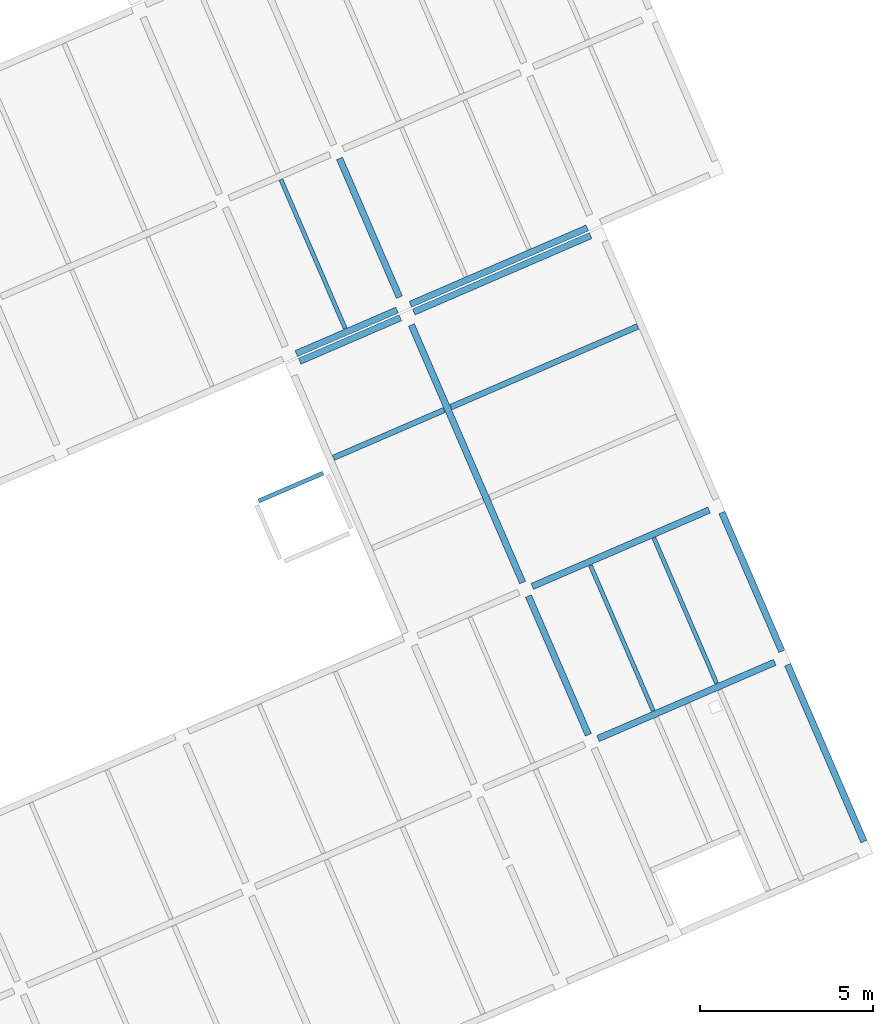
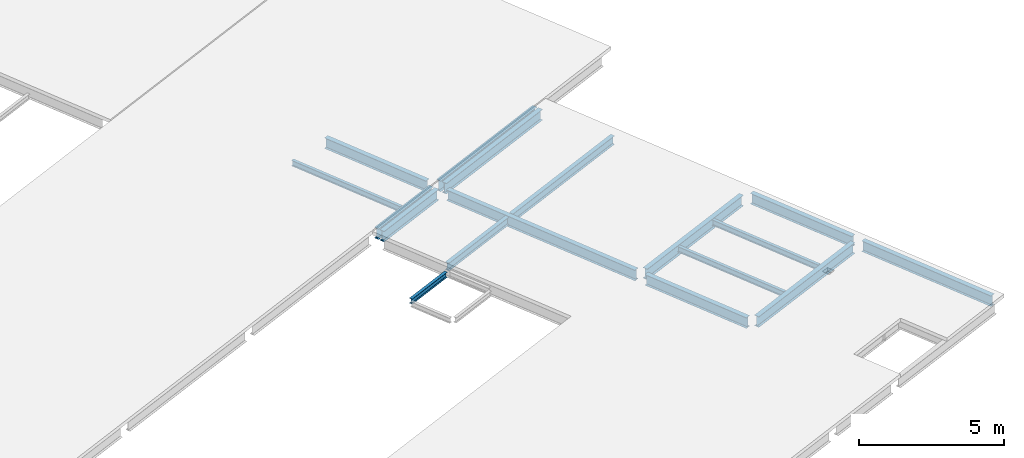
# One storey, part 7 of 15: 17 beams.
"""IFC4 building model written with IfcOpenShell, lengths in metres."""

from ifc_helpers import new_model, entity, si_unit, converted_unit, derived_unit, direction, frame, origin, place, context, subcontext, project, spatial, line, arc, indexed_curve, outline, extrude, source, transform, mapped, material, type_object, type_shapes, element, save


model = new_model("IFC4")

# Units and contexts
model_context = context("Model", 3, precision=1e-05, world=origin(), true_north=direction((6.12323399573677e-17, 1.0)))
body_context = subcontext(model_context, "Body", "Model", "MODEL_VIEW")
ifc_project = project(units=[si_unit("LENGTHUNIT", "METRE"), si_unit("AREAUNIT", "SQUARE_METRE"), si_unit("VOLUMEUNIT", "CUBIC_METRE"), converted_unit("PLANEANGLEUNIT", "DEGREE", entity("IfcPlaneAngleMeasure", 0.0174532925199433), si_unit("PLANEANGLEUNIT", "RADIAN"), dimensions=[0, 0, 0, 0, 0, 0, 0]), si_unit("MASSUNIT", "GRAM", prefix="KILO"), derived_unit("MOMENTOFINERTIAUNIT", [(si_unit("LENGTHUNIT", "METRE"), 4)]), derived_unit("LINEARFORCEUNIT", [(si_unit("MASSUNIT", "GRAM", prefix="KILO"), 1), (si_unit("TIMEUNIT", "SECOND"), -2)]), derived_unit("WARPINGCONSTANTUNIT", [(si_unit("LENGTHUNIT", "METRE"), 6)]), derived_unit("THERMALTRANSMITTANCEUNIT", [(si_unit("MASSUNIT", "GRAM", prefix="KILO"), 1), (si_unit("THERMODYNAMICTEMPERATUREUNIT", "KELVIN"), -1), (si_unit("TIMEUNIT", "SECOND"), -3)]), derived_unit("USERDEFINED", [(si_unit("MASSUNIT", "GRAM", prefix="KILO"), 1), (si_unit("TIMEUNIT", "SECOND"), -2), (si_unit("THERMODYNAMICTEMPERATUREUNIT", "KELVIN"), -1)]), derived_unit("THERMALRESISTANCEUNIT", [(si_unit("MASSUNIT", "GRAM", prefix="KILO"), -1), (si_unit("TIMEUNIT", "SECOND"), 3), (si_unit("THERMODYNAMICTEMPERATUREUNIT", "KELVIN"), 1)])], contexts=[model_context])

# Site, building, storey
site_placement = place(None, origin())
site = spatial("IfcSite", under=ifc_project, at=site_placement, Name="Default", CompositionType="ELEMENT")
building_placement = place(site_placement, frame((12.6613425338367, -82.5732315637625, 317.15), z_axis=(0.0, 0.0, 1.0), x_axis=(-0.396377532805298, 0.918087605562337, 0.0)))
building = spatial("IfcBuilding", under=site, at=building_placement, Name="CESFAM Coyhaique", CompositionType="ELEMENT")
storey_placement = place(building_placement, frame((0.0, 0.0, 8.45000000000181)))
storey = spatial("IfcBuildingStorey", under=building, at=storey_placement, Name="Nivel 3", CompositionType="ELEMENT", Elevation=8.45000000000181)

# Beams
ifc_material = material(Name="Steel, 45-345", Category="Metal")
beam_type_1 = type_object("IfcBeamType", Name="M_W Shapes:W450X190mm", PredefinedType="BEAM", material=ifc_material)
shared_shape_1 = source(origin(), body_context, "Body", "SweptSolid", [
    extrude(outline(indexed_curve([(-0.224999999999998, -0.0950000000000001), (-0.215349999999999, -0.0950000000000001), (-0.215349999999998, -0.0105700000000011), (-0.213109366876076, -0.00516063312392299), (-0.207699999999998, -0.0029200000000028), (0.207700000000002, -0.0029200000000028), (0.21310936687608, -0.00516063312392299), (0.215350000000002, -0.0105700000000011), (0.215350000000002, -0.0950000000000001), (0.225000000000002, -0.0950000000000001), (0.225000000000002, 0.0950000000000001), (0.215350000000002, 0.0950000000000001), (0.215350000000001, 0.0105699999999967), (0.21310936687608, 0.00516063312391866), (0.207700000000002, 0.00291999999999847), (-0.207699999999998, 0.00291999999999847), (-0.213109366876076, 0.00516063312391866), (-0.215349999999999, 0.0105699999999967), (-0.215349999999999, 0.0950000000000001), (-0.224999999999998, 0.0950000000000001)], segments=[line(1, 2, 3), arc(3, 4, 5), line(5, 6), arc(6, 7, 8), line(8, 9, 10, 11, 12, 13), arc(13, 14, 15), line(15, 16), arc(16, 17, 18), line(18, 19, 20, 1)], self_intersect=False)), frame((4.381553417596, -21.2971495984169, 8.07500000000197), z_axis=(1.0, 0.0, 0.0), x_axis=(0.0, 0.0, -1.0)), (0.0, 0.0, 1.0), 5.5746),
])
type_shapes(beam_type_1, [shared_shape_1])
beam_1_placement = place(storey_placement, frame((0.0, 0.0, -8.45000000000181)))
element("IfcBeam", 1, at=beam_1_placement, inside=storey, type_object=beam_type_1, Name="M_W Shapes:W450X190mm", ObjectType="M_W Shapes:W450X190mm", PredefinedType="BEAM", context=body_context, shape_type="MappedRepresentation", body=[
    mapped(shared_shape_1, transform((0.0, 0.0, 0.0), scale=1.0)),
])
beam_type_2 = type_object("IfcBeamType", Name="M_W Shapes:W450X190mm", PredefinedType="BEAM", material=ifc_material)
shared_shape_2 = source(origin(), body_context, "Body", "SweptSolid", [
    extrude(outline(indexed_curve([(-0.224999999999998, -0.0950000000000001), (-0.215349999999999, -0.0949999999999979), (-0.215349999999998, -0.0105699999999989), (-0.213109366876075, -0.00516063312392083), (-0.207699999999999, -0.00291999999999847), (0.207700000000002, -0.00291999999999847), (0.213109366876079, -0.00516063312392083), (0.215350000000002, -0.0105699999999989), (0.215350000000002, -0.0950000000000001), (0.225000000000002, -0.0950000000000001), (0.225000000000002, 0.0950000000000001), (0.215350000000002, 0.0950000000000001), (0.215350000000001, 0.0105700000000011), (0.213109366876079, 0.00516063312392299), (0.207700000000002, 0.00292000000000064), (-0.207699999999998, 0.00292000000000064), (-0.213109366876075, 0.00516063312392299), (-0.215349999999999, 0.0105700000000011), (-0.215349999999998, 0.0950000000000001), (-0.224999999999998, 0.0950000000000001)], segments=[line(1, 2, 3), arc(3, 4, 5), line(5, 6), arc(6, 7, 8), line(8, 9, 10, 11, 12, 13), arc(13, 14, 15), line(15, 16), arc(16, 17, 18), line(18, 19, 20, 1)], self_intersect=False)), frame((10.3815534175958, -15.1971495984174, 8.07500000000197), z_axis=(1.0, 0.0, 0.0), x_axis=(0.0, 0.0, -1.0)), (0.0, 0.0, 1.0), 4.3746),
])
type_shapes(beam_type_2, [shared_shape_2])
beam_2_placement = place(storey_placement, frame((0.0, 0.0, -8.45000000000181)))
element("IfcBeam", 2, at=beam_2_placement, inside=storey, type_object=beam_type_2, Name="M_W Shapes:W450X190mm", ObjectType="M_W Shapes:W450X190mm", PredefinedType="BEAM", context=body_context, shape_type="MappedRepresentation", body=[
    mapped(shared_shape_2, transform((0.0, 0.0, 0.0), scale=1.0)),
])
beam_type_3 = type_object("IfcBeamType", Name="M_W Shapes:W450X190mm", PredefinedType="BEAM", material=ifc_material)
shared_shape_3 = source(origin(), body_context, "Body", "SweptSolid", [
    extrude(outline(indexed_curve([(-0.224999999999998, -0.0950000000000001), (-0.215349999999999, -0.0950000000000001), (-0.215349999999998, -0.0105700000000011), (-0.213109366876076, -0.00516063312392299), (-0.207699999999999, -0.0029200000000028), (0.207700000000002, -0.0029200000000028), (0.21310936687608, -0.00516063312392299), (0.215350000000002, -0.0105700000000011), (0.215350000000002, -0.0950000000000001), (0.225000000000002, -0.0950000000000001), (0.225000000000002, 0.0950000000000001), (0.215350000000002, 0.0950000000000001), (0.215350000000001, 0.0105699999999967), (0.21310936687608, 0.00516063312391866), (0.207700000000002, 0.00291999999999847), (-0.207699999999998, 0.00291999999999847), (-0.213109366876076, 0.00516063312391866), (-0.215349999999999, 0.0105700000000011), (-0.215349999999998, 0.0950000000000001), (-0.224999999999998, 0.0950000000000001)], segments=[line(1, 2, 3), arc(3, 4, 5), line(5, 6), arc(6, 7, 8), line(8, 9, 10, 11, 12, 13), arc(13, 14, 15), line(15, 16), arc(16, 17, 18), line(18, 19, 20, 1)], self_intersect=False)), frame((10.3815534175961, -21.2971495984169, 8.07500000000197), z_axis=(1.0, 0.0, 0.0), x_axis=(0.0, 0.0, -1.0)), (0.0, 0.0, 1.0), 4.3746),
])
type_shapes(beam_type_3, [shared_shape_3])
beam_3_placement = place(storey_placement, frame((0.0, 0.0, -8.45000000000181)))
element("IfcBeam", 3, at=beam_3_placement, inside=storey, type_object=beam_type_3, Name="M_W Shapes:W450X190mm", ObjectType="M_W Shapes:W450X190mm", PredefinedType="BEAM", context=body_context, shape_type="MappedRepresentation", body=[
    mapped(shared_shape_3, transform((0.0, 0.0, 0.0), scale=1.0)),
])
beam_type_4 = type_object("IfcBeamType", Name="M_W Shapes:W450X190mm", PredefinedType="BEAM", material=ifc_material)
shared_shape_4 = source(origin(), body_context, "Body", "SweptSolid", [
    extrude(outline(indexed_curve([(-0.224999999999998, -0.0949999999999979), (-0.215349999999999, -0.0949999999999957), (-0.215349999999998, -0.0105699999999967), (-0.213109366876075, -0.00516063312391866), (-0.207699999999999, -0.0029199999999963), (0.207700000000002, -0.0029199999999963), (0.213109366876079, -0.00516063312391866), (0.215350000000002, -0.0105699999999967), (0.215350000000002, -0.0949999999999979), (0.225000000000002, -0.0949999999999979), (0.225000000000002, 0.0950000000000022), (0.215350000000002, 0.0950000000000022), (0.215350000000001, 0.0105700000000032), (0.213109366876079, 0.00516063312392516), (0.207700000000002, 0.0029200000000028), (-0.207699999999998, 0.0029200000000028), (-0.213109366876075, 0.00516063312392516), (-0.215349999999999, 0.0105700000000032), (-0.215349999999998, 0.0950000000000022), (-0.224999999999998, 0.0950000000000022)], segments=[line(1, 2, 3), arc(3, 4, 5), line(5, 6), arc(6, 7, 8), line(8, 9, 10, 11, 12, 13), arc(13, 14, 15), line(15, 16), arc(16, 17, 18), line(18, 19, 20, 1)], self_intersect=False)), frame((15.1815534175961, -15.1971495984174, 8.07500000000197), z_axis=(1.0, 0.0, 0.0), x_axis=(0.0, 0.0, -1.0)), (0.0, 0.0, 1.0), 8.1246),
])
type_shapes(beam_type_4, [shared_shape_4])
beam_4_placement = place(storey_placement, frame((0.0, 0.0, -8.45000000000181)))
element("IfcBeam", 4, at=beam_4_placement, inside=storey, type_object=beam_type_4, Name="M_W Shapes:W450X190mm", ObjectType="M_W Shapes:W450X190mm", PredefinedType="BEAM", context=body_context, shape_type="MappedRepresentation", body=[
    mapped(shared_shape_4, transform((0.0, 0.0, 0.0), scale=1.0)),
])
beam_type_5 = type_object("IfcBeamType", Name="M_W Shapes:W450X190mm", PredefinedType="BEAM", material=ifc_material)
shared_shape_5 = source(origin(), body_context, "Body", "SweptSolid", [
    extrude(outline(indexed_curve([(-0.224999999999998, -0.0950000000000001), (-0.215349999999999, -0.0949999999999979), (-0.215349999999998, -0.0105699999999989), (-0.213109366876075, -0.00516063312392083), (-0.207699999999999, -0.00291999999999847), (0.207700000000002, -0.00291999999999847), (0.213109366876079, -0.00516063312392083), (0.215350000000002, -0.0105699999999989), (0.215350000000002, -0.0950000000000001), (0.225000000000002, -0.0950000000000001), (0.225000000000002, 0.0950000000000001), (0.215350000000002, 0.0950000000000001), (0.215350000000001, 0.0105700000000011), (0.213109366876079, 0.00516063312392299), (0.207700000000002, 0.00292000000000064), (-0.207699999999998, 0.00292000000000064), (-0.213109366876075, 0.00516063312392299), (-0.215349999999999, 0.0105700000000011), (-0.215349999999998, 0.0950000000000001), (-0.224999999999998, 0.0950000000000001)], segments=[line(1, 2, 3), arc(3, 4, 5), line(5, 6), arc(6, 7, 8), line(8, 9, 10, 11, 12, 13), arc(13, 14, 15), line(15, 16), arc(16, 17, 18), line(18, 19, 20, 1)], self_intersect=False)), frame((24.1815534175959, -15.1971495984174, 8.07500000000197), z_axis=(1.0, 0.0, 0.0), x_axis=(0.0, 0.0, -1.0)), (0.0, 0.0, 1.0), 4.3746),
])
type_shapes(beam_type_5, [shared_shape_5])
beam_5_placement = place(storey_placement, frame((0.0, 0.0, -8.45000000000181)))
element("IfcBeam", 5, at=beam_5_placement, inside=storey, type_object=beam_type_5, Name="M_W Shapes:W450X190mm", ObjectType="M_W Shapes:W450X190mm", PredefinedType="BEAM", context=body_context, shape_type="MappedRepresentation", body=[
    mapped(shared_shape_5, transform((0.0, 0.0, 0.0), scale=1.0)),
])
beam_type_6 = type_object("IfcBeamType", Name="M_W Shapes:W450X190mm", PredefinedType="BEAM", material=ifc_material)
shared_shape_6 = source(origin(), body_context, "Body", "SweptSolid", [
    extrude(outline(indexed_curve([(-0.0950000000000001, -0.225000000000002), (0.0950000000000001, -0.225000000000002), (0.0950000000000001, -0.215350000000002), (0.0105699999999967, -0.215350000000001), (0.00516063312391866, -0.21310936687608), (0.00291999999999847, -0.207700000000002), (0.00291999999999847, 0.207699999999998), (0.00516063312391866, 0.213109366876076), (0.0105700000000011, 0.215349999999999), (0.0950000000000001, 0.215349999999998), (0.0950000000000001, 0.224999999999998), (-0.0950000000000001, 0.224999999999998), (-0.0950000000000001, 0.215349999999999), (-0.0105700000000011, 0.215349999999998), (-0.00516063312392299, 0.213109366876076), (-0.0029200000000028, 0.207699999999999), (-0.0029200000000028, -0.207700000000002), (-0.00516063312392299, -0.21310936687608), (-0.0105700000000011, -0.215350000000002), (-0.0950000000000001, -0.215350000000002)], segments=[line(1, 2, 3, 4), arc(4, 5, 6), line(6, 7), arc(7, 8, 9), line(9, 10, 11, 12, 13, 14), arc(14, 15, 16), line(16, 17), arc(17, 18, 19), line(19, 20, 1)], self_intersect=False)), frame((23.8638534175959, -14.9844495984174, 8.07500000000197), z_axis=(0.0, 1.0, 0.0), x_axis=(-1.0, 0.0, 0.0)), (0.0, 0.0, 1.0), 3.1746),
])
type_shapes(beam_type_6, [shared_shape_6])
beam_6_placement = place(storey_placement, frame((0.0, 0.0, -8.45000000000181)))
element("IfcBeam", 6, at=beam_6_placement, inside=storey, type_object=beam_type_6, Name="M_W Shapes:W450X190mm", ObjectType="M_W Shapes:W450X190mm", PredefinedType="BEAM", context=body_context, shape_type="MappedRepresentation", body=[
    mapped(shared_shape_6, transform((0.0, 0.0, 0.0), scale=1.0)),
])
beam_type_7 = type_object("IfcBeamType", Name="M_W Shapes:W450X190mm", PredefinedType="BEAM", material=ifc_material)
shared_shape_7 = source(origin(), body_context, "Body", "SweptSolid", [
    extrude(outline(indexed_curve([(-0.0950000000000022, -0.225000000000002), (0.0949999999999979, -0.225000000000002), (0.0949999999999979, -0.215350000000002), (0.0105699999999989, -0.215350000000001), (0.00516063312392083, -0.213109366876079), (0.00291999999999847, -0.207700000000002), (0.00291999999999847, 0.207699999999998), (0.00516063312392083, 0.213109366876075), (0.0105699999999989, 0.215349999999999), (0.0949999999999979, 0.215349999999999), (0.0949999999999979, 0.224999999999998), (-0.0950000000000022, 0.224999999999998), (-0.0950000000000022, 0.215349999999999), (-0.0105700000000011, 0.215349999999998), (-0.00516063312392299, 0.213109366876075), (-0.00292000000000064, 0.207699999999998), (-0.00292000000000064, -0.207700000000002), (-0.00516063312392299, -0.213109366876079), (-0.0105700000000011, -0.215350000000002), (-0.0950000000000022, -0.215350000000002)], segments=[line(1, 2, 3, 4), arc(4, 5, 6), line(6, 7), arc(7, 8, 9), line(9, 10, 11, 12, 13, 14), arc(14, 15, 16), line(16, 17), arc(17, 18, 19), line(19, 20, 1)], self_intersect=False)), frame((10.168853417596, -20.9844495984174, 8.07500000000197), z_axis=(0.0, 1.0, 0.0), x_axis=(-1.0, 0.0, 0.0)), (0.0, 0.0, 1.0), 5.5746),
])
type_shapes(beam_type_7, [shared_shape_7])
beam_7_placement = place(storey_placement, frame((0.0, 0.0, -8.45000000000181)))
element("IfcBeam", 7, at=beam_7_placement, inside=storey, type_object=beam_type_7, Name="M_W Shapes:W450X190mm", ObjectType="M_W Shapes:W450X190mm", PredefinedType="BEAM", context=body_context, shape_type="MappedRepresentation", body=[
    mapped(shared_shape_7, transform((0.0, 0.0, 0.0), scale=1.0)),
])
beam_type_8 = type_object("IfcBeamType", Name="M_W Shapes:W450X190mm", PredefinedType="BEAM", material=ifc_material)
shared_shape_8 = source(origin(), body_context, "Body", "SweptSolid", [
    extrude(outline(indexed_curve([(-0.0950000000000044, -0.225000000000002), (0.0949999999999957, -0.225000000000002), (0.0949999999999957, -0.215350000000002), (0.0105699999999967, -0.215350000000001), (0.00516063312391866, -0.213109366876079), (0.0029199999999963, -0.207700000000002), (0.0029199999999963, 0.207699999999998), (0.00516063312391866, 0.213109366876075), (0.0105699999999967, 0.215349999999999), (0.0949999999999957, 0.215349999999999), (0.0949999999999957, 0.224999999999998), (-0.0950000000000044, 0.224999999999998), (-0.0950000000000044, 0.215349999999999), (-0.0105700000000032, 0.215349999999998), (-0.00516063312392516, 0.213109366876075), (-0.0029200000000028, 0.207699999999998), (-0.0029200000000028, -0.207700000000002), (-0.00516063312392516, -0.213109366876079), (-0.0105700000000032, -0.215350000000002), (-0.0950000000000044, -0.215350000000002)], segments=[line(1, 2, 3, 4), arc(4, 5, 6), line(6, 7), arc(7, 8, 9), line(9, 10, 11, 12, 13, 14), arc(14, 15, 16), line(16, 17), arc(17, 18, 19), line(19, 20, 1)], self_intersect=False)), frame((14.9688534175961, -20.9844495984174, 8.07500000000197), z_axis=(0.0, 1.0, 0.0), x_axis=(-1.0, 0.0, 0.0)), (0.0, 0.0, 1.0), 5.5746),
])
type_shapes(beam_type_8, [shared_shape_8])
beam_8_placement = place(storey_placement, frame((0.0, 0.0, -8.45000000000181)))
element("IfcBeam", 8, at=beam_8_placement, inside=storey, type_object=beam_type_8, Name="M_W Shapes:W450X190mm", ObjectType="M_W Shapes:W450X190mm", PredefinedType="BEAM", context=body_context, shape_type="MappedRepresentation", body=[
    mapped(shared_shape_8, transform((0.0, 0.0, 0.0), scale=1.0)),
])
beam_type_9 = type_object("IfcBeamType", Name="M_W Shapes:W450X190mm", PredefinedType="BEAM", material=ifc_material)
shared_shape_9 = source(origin(), body_context, "Body", "SweptSolid", [
    extrude(outline(indexed_curve([(-0.0950000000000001, -0.225000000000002), (0.0950000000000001, -0.225000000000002), (0.0950000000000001, -0.215350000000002), (0.0105699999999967, -0.215350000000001), (0.00516063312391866, -0.21310936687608), (0.00291999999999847, -0.207700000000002), (0.00291999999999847, 0.207699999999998), (0.00516063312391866, 0.213109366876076), (0.0105699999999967, 0.215349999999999), (0.0950000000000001, 0.215349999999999), (0.0950000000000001, 0.224999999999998), (-0.0950000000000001, 0.224999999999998), (-0.0950000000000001, 0.215349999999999), (-0.0105700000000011, 0.215349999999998), (-0.00516063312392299, 0.213109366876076), (-0.0029200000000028, 0.207699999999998), (-0.0029200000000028, -0.207700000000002), (-0.00516063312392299, -0.21310936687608), (-0.0105700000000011, -0.215350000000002), (-0.0950000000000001, -0.215350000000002)], segments=[line(1, 2, 3, 4), arc(4, 5, 6), line(6, 7), arc(7, 8, 9), line(9, 10, 11, 12, 13, 14), arc(14, 15, 16), line(16, 17), arc(17, 18, 19), line(19, 20, 1)], self_intersect=False)), frame((23.8638534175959, -20.9844495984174, 8.07500000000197), z_axis=(0.0, 1.0, 0.0), x_axis=(-1.0, 0.0, 0.0)), (0.0, 0.0, 1.0), 5.5746),
])
type_shapes(beam_type_9, [shared_shape_9])
beam_9_placement = place(storey_placement, frame((0.0, 0.0, -8.45000000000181)))
element("IfcBeam", 9, at=beam_9_placement, inside=storey, type_object=beam_type_9, Name="M_W Shapes:W450X190mm", ObjectType="M_W Shapes:W450X190mm", PredefinedType="BEAM", context=body_context, shape_type="MappedRepresentation", body=[
    mapped(shared_shape_9, transform((0.0, 0.0, 0.0), scale=1.0)),
])
beam_type_10 = type_object("IfcBeamType", Name="M_W Shapes:W450X190mm", PredefinedType="BEAM", material=ifc_material)
shared_shape_10 = source(origin(), body_context, "Body", "SweptSolid", [
    extrude(outline(indexed_curve([(-0.0950000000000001, -0.225000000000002), (0.0950000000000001, -0.225000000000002), (0.0950000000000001, -0.215350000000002), (0.0105699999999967, -0.215350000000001), (0.00516063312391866, -0.21310936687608), (0.00291999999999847, -0.207700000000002), (0.00291999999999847, 0.207699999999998), (0.00516063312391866, 0.213109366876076), (0.0105700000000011, 0.215349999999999), (0.0950000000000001, 0.215349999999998), (0.0950000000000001, 0.224999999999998), (-0.0950000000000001, 0.224999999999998), (-0.0950000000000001, 0.215349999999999), (-0.0105700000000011, 0.215349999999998), (-0.00516063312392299, 0.213109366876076), (-0.0029200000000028, 0.207699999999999), (-0.0029200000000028, -0.207700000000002), (-0.00516063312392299, -0.21310936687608), (-0.0105700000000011, -0.215350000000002), (-0.0950000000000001, -0.215350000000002)], segments=[line(1, 2, 3, 4), arc(4, 5, 6), line(6, 7), arc(7, 8, 9), line(9, 10, 11, 12, 13, 14), arc(14, 15, 16), line(16, 17), arc(17, 18, 19), line(19, 20, 1)], self_intersect=False)), frame((23.6238534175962, -14.9844495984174, 8.07500000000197), z_axis=(0.0, 1.0, 0.0), x_axis=(-1.0, 0.0, 0.0)), (0.0, 0.0, 1.0), 3.1746),
])
type_shapes(beam_type_10, [shared_shape_10])
beam_10_placement = place(storey_placement, frame((0.0, 0.0, -8.45000000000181)))
element("IfcBeam", 10, at=beam_10_placement, inside=storey, type_object=beam_type_10, Name="M_W Shapes:W450X190mm", ObjectType="M_W Shapes:W450X190mm", PredefinedType="BEAM", context=body_context, shape_type="MappedRepresentation", body=[
    mapped(shared_shape_10, transform((0.0, 0.0, 0.0), scale=1.0)),
])
beam_type_11 = type_object("IfcBeamType", Name="M_W Shapes:W450X190mm", PredefinedType="BEAM", material=ifc_material)
shared_shape_11 = source(origin(), body_context, "Body", "SweptSolid", [
    extrude(outline(indexed_curve([(-0.0950000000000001, -0.225000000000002), (0.0950000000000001, -0.225000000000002), (0.0950000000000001, -0.215350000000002), (0.0105699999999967, -0.215350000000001), (0.00516063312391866, -0.21310936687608), (0.00291999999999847, -0.207700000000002), (0.00291999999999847, 0.207699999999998), (0.00516063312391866, 0.213109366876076), (0.0105699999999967, 0.215349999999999), (0.0950000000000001, 0.215349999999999), (0.0950000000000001, 0.224999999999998), (-0.0950000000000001, 0.224999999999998), (-0.0950000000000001, 0.215349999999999), (-0.0105700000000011, 0.215349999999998), (-0.00516063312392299, 0.213109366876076), (-0.0029200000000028, 0.207699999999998), (-0.0029200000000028, -0.207700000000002), (-0.00516063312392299, -0.21310936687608), (-0.0105700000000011, -0.215350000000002), (-0.0950000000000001, -0.215350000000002)], segments=[line(1, 2, 3, 4), arc(4, 5, 6), line(6, 7), arc(7, 8, 9), line(9, 10, 11, 12, 13, 14), arc(14, 15, 16), line(16, 17), arc(17, 18, 19), line(19, 20, 1)], self_intersect=False)), frame((23.6238534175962, -20.9844495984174, 8.07500000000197), z_axis=(0.0, 1.0, 0.0), x_axis=(-1.0, 0.0, 0.0)), (0.0, 0.0, 1.0), 5.5746),
])
type_shapes(beam_type_11, [shared_shape_11])
beam_11_placement = place(storey_placement, frame((0.0, 0.0, -8.45000000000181)))
element("IfcBeam", 11, at=beam_11_placement, inside=storey, type_object=beam_type_11, Name="M_W Shapes:W450X190mm", ObjectType="M_W Shapes:W450X190mm", PredefinedType="BEAM", context=body_context, shape_type="MappedRepresentation", body=[
    mapped(shared_shape_11, transform((0.0, 0.0, 0.0), scale=1.0)),
])
beam_type_12 = type_object("IfcBeamType", Name="M_W Shapes:W240X120mm", PredefinedType="BEAM", material=ifc_material)
shared_shape_12 = source(origin(), body_context, "Body", "SweptSolid", [
    extrude(outline(indexed_curve([(-0.119999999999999, -0.0599999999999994), (-0.11035, -0.0599999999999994), (-0.110349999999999, -0.0105699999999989), (-0.108109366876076, -0.00516063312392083), (-0.102699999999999, -0.00291999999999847), (0.1027, -0.00291999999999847), (0.108109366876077, -0.00516063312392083), (0.11035, -0.0105700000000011), (0.110350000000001, -0.0599999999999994), (0.120000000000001, -0.0599999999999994), (0.120000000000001, 0.0600000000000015), (0.11035, 0.0599999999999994), (0.11035, 0.0105700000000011), (0.108109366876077, 0.00516063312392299), (0.102699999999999, 0.00292000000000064), (-0.102699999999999, 0.00292000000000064), (-0.108109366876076, 0.00516063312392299), (-0.11035, 0.0105700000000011), (-0.110349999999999, 0.0599999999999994), (-0.119999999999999, 0.0599999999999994)], segments=[line(1, 2, 3), arc(3, 4, 5), line(5, 6), arc(6, 7, 8), line(8, 9, 10, 11, 12, 13), arc(13, 14, 15), line(15, 16), arc(16, 17, 18), line(18, 19, 20, 1)], self_intersect=False)), frame((10.2765534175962, -17.197149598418, 8.18000000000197), z_axis=(1.0, 0.0, 0.0), x_axis=(0.0, 0.0, -1.0)), (0.0, 0.0, 1.0), 4.5846),
])
type_shapes(beam_type_12, [shared_shape_12])
beam_12_placement = place(storey_placement, frame((0.0, 0.0, -8.45000000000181)))
element("IfcBeam", 12, at=beam_12_placement, inside=storey, type_object=beam_type_12, Name="M_W Shapes:W240X120mm", ObjectType="M_W Shapes:W240X120mm", PredefinedType="BEAM", context=body_context, shape_type="MappedRepresentation", body=[
    mapped(shared_shape_12, transform((0.0, 0.0, 0.0), scale=1.0)),
])
beam_type_13 = type_object("IfcBeamType", Name="M_W Shapes:W240X120mm", PredefinedType="BEAM", material=ifc_material)
shared_shape_13 = source(origin(), body_context, "Body", "SweptSolid", [
    extrude(outline(indexed_curve([(-0.119999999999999, -0.0599999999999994), (-0.11035, -0.0599999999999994), (-0.110349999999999, -0.0105699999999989), (-0.108109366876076, -0.00516063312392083), (-0.102699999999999, -0.00291999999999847), (0.1027, -0.00291999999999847), (0.108109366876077, -0.00516063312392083), (0.11035, -0.0105700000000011), (0.110350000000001, -0.0599999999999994), (0.120000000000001, -0.0599999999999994), (0.120000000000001, 0.0600000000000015), (0.11035, 0.0599999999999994), (0.11035, 0.0105700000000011), (0.108109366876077, 0.00516063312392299), (0.102699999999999, 0.00292000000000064), (-0.102699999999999, 0.00292000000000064), (-0.108109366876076, 0.00516063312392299), (-0.11035, 0.0105700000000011), (-0.110349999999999, 0.0599999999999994), (-0.119999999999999, 0.0599999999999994)], segments=[line(1, 2, 3), arc(3, 4, 5), line(5, 6), arc(6, 7, 8), line(8, 9, 10, 11, 12, 13), arc(13, 14, 15), line(15, 16), arc(16, 17, 18), line(18, 19, 20, 1)], self_intersect=False)), frame((10.2765534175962, -19.197149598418, 8.18000000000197), z_axis=(1.0, 0.0, 0.0), x_axis=(0.0, 0.0, -1.0)), (0.0, 0.0, 1.0), 4.5846),
])
type_shapes(beam_type_13, [shared_shape_13])
beam_13_placement = place(storey_placement, frame((0.0, 0.0, -8.45000000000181)))
element("IfcBeam", 13, at=beam_13_placement, inside=storey, type_object=beam_type_13, Name="M_W Shapes:W240X120mm", ObjectType="M_W Shapes:W240X120mm", PredefinedType="BEAM", context=body_context, shape_type="MappedRepresentation", body=[
    mapped(shared_shape_13, transform((0.0, 0.0, 0.0), scale=1.0)),
])
beam_type_14 = type_object("IfcBeamType", Name="M_W Shapes:W240X120mm", PredefinedType="BEAM", material=ifc_material)
shared_shape_14 = source(origin(), body_context, "Body", "SweptSolid", [
    extrude(outline(indexed_curve([(-0.119999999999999, -0.0599999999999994), (-0.11035, -0.0599999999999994), (-0.110349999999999, -0.0105699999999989), (-0.108109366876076, -0.00516063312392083), (-0.102699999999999, -0.00291999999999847), (0.1027, -0.00291999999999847), (0.108109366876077, -0.00516063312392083), (0.11035, -0.0105700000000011), (0.110350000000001, -0.0599999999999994), (0.120000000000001, -0.0599999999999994), (0.120000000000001, 0.0600000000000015), (0.11035, 0.0599999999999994), (0.11035, 0.0105700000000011), (0.108109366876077, 0.00516063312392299), (0.102699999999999, 0.00292000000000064), (-0.102699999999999, 0.00292000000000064), (-0.108109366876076, 0.00516063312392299), (-0.11035, 0.0105700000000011), (-0.110349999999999, 0.0599999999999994), (-0.119999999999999, 0.0599999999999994)], segments=[line(1, 2, 3), arc(3, 4, 5), line(5, 6), arc(6, 7, 8), line(8, 9, 10, 11, 12, 13), arc(13, 14, 15), line(15, 16), arc(16, 17, 18), line(18, 19, 20, 1)], self_intersect=False)), frame((23.9715534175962, -13.397270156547, 8.18000000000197), z_axis=(1.0, 0.0, 0.0), x_axis=(0.0, 0.0, -1.0)), (0.0, 0.0, 1.0), 4.6896),
])
type_shapes(beam_type_14, [shared_shape_14])
beam_14_placement = place(storey_placement, frame((0.0, 0.0, -8.45000000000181)))
element("IfcBeam", 14, at=beam_14_placement, inside=storey, type_object=beam_type_14, Name="M_W Shapes:W240X120mm", ObjectType="M_W Shapes:W240X120mm", PredefinedType="BEAM", context=body_context, shape_type="MappedRepresentation", body=[
    mapped(shared_shape_14, transform((0.0, 0.0, 0.0), scale=1.0)),
])
beam_type_15 = type_object("IfcBeamType", Name="M_W Shapes:W330X160mm", PredefinedType="BEAM", material=ifc_material)
shared_shape_15 = source(origin(), body_context, "Body", "SweptSolid", [
    extrude(outline(indexed_curve([(-0.0799999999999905, -0.165), (0.0800000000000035, -0.164999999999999), (0.0800000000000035, -0.155349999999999), (0.0105700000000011, -0.155349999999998), (0.00516063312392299, -0.153109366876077), (0.0029200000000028, -0.147699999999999), (0.0029200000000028, 0.147700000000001), (0.00516063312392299, 0.153109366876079), (0.0105700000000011, 0.15535), (0.0800000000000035, 0.15535), (0.0800000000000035, 0.165), (-0.0799999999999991, 0.165), (-0.0799999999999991, 0.15535), (-0.0105699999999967, 0.15535), (-0.00516063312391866, 0.153109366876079), (-0.00291999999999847, 0.147700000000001), (-0.00291999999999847, -0.147699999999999), (-0.00516063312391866, -0.153109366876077), (-0.0105699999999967, -0.155349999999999), (-0.0799999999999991, -0.155349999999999)], segments=[line(1, 2, 3, 4), arc(4, 5, 6), line(6, 7), arc(7, 8, 9), line(9, 10, 11, 12, 13, 14), arc(14, 15, 16), line(16, 17), arc(17, 18, 19), line(19, 20, 1)], self_intersect=False)), frame((20.6688534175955, -15.0894495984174, 8.13500000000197), z_axis=(0.0, 1.0, 0.0), x_axis=(-1.0, 0.0, 0.0)), (0.0, 0.0, 1.0), 3.4846),
])
type_shapes(beam_type_15, [shared_shape_15])
beam_15_placement = place(storey_placement, frame((0.0, 0.0, -8.45000000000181)))
element("IfcBeam", 15, at=beam_15_placement, inside=storey, type_object=beam_type_15, Name="M_W Shapes:W330X160mm", ObjectType="M_W Shapes:W330X160mm", PredefinedType="BEAM", context=body_context, shape_type="MappedRepresentation", body=[
    mapped(shared_shape_15, transform((0.0, 0.0, 0.0), scale=1.0)),
])
beam_type_16 = type_object("IfcBeamType", Name="M_W Shapes:W360X170mm", PredefinedType="BEAM", material=ifc_material)
shared_shape_16 = source(origin(), body_context, "Body", "SweptSolid", [
    extrude(outline(indexed_curve([(-0.084999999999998, -0.180000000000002), (0.0850000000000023, -0.180000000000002), (0.0850000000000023, -0.170350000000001), (0.0105700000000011, -0.17035), (0.00516063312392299, -0.168109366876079), (0.0029200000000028, -0.162700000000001), (0.0029200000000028, 0.162699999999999), (0.00516063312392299, 0.168109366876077), (0.0105700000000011, 0.170349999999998), (0.0850000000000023, 0.170349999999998), (0.0850000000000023, 0.179999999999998), (-0.084999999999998, 0.179999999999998), (-0.084999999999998, 0.170349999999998), (-0.0105699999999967, 0.170349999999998), (-0.00516063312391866, 0.168109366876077), (-0.00291999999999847, 0.162699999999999), (-0.00291999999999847, -0.162700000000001), (-0.00516063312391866, -0.168109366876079), (-0.0105699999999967, -0.170350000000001), (-0.084999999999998, -0.170350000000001)], segments=[line(1, 2, 3, 4), arc(4, 5, 6), line(6, 7), arc(7, 8, 9), line(9, 10, 11, 12, 13, 14), arc(14, 15, 16), line(16, 17), arc(17, 18, 19), line(19, 20, 1)], self_intersect=False)), frame((20.6688534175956, -21.1944495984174, 8.12000000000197), z_axis=(0.0, 1.0, 0.0), x_axis=(-1.0, 0.0, 0.0)), (0.0, 0.0, 1.0), 5.8896),
])
type_shapes(beam_type_16, [shared_shape_16])
beam_16_placement = place(storey_placement, frame((0.0, 0.0, -8.45000000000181)))
element("IfcBeam", 16, at=beam_16_placement, inside=storey, type_object=beam_type_16, Name="M_W Shapes:W360X170mm", ObjectType="M_W Shapes:W360X170mm", PredefinedType="BEAM", context=body_context, shape_type="MappedRepresentation", body=[
    mapped(shared_shape_16, transform((0.0, 0.0, 0.0), scale=1.0)),
])
beam_type_17 = type_object("IfcBeamType", Name="M_W Shapes:W220X120mm", PredefinedType="BEAM", material=ifc_material)
shared_shape_17 = source(origin(), body_context, "Body", "SweptSolid", [
    extrude(outline(indexed_curve([(-0.0599999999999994, -0.11), (0.0599999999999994, -0.11), (0.0599999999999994, -0.100350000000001), (0.0105700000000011, -0.10035), (0.00516063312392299, -0.0981093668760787), (0.0029200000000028, -0.0927000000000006), (0.0029200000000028, 0.0926999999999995), (0.00516063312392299, 0.0981093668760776), (0.0105700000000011, 0.100349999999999), (0.0599999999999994, 0.100349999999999), (0.0599999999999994, 0.11), (-0.0599999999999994, 0.11), (-0.0599999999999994, 0.100349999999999), (-0.0105699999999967, 0.100349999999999), (-0.00516063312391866, 0.0981093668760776), (-0.00291999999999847, 0.0926999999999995), (-0.00291999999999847, -0.0927000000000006), (-0.00516063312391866, -0.0981093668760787), (-0.0105699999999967, -0.100350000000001), (-0.0599999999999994, -0.100350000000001)], segments=[line(1, 2, 3, 4), arc(4, 5, 6), line(6, 7), arc(7, 8, 9), line(9, 10, 11, 12, 13, 14), arc(14, 15, 16), line(16, 17), arc(17, 18, 19), line(19, 20, 1)], self_intersect=False)), frame((20.3789296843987, -9.11714975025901, 8.19000000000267), z_axis=(0.0, -1.0, 0.0), x_axis=(-1.0, 0.0, 0.0)), (0.0, 0.0, 1.0), 2.0323),
])
type_shapes(beam_type_17, [shared_shape_17])
beam_17_placement = place(storey_placement, frame((0.0, 0.0, -8.45000000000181)))
element("IfcBeam", 17, at=beam_17_placement, inside=storey, type_object=beam_type_17, Name="M_W Shapes:W220X120mm", ObjectType="M_W Shapes:W220X120mm", PredefinedType="BEAM", context=body_context, shape_type="MappedRepresentation", body=[
    mapped(shared_shape_17, transform((0.0, 0.0, 0.0), scale=1.0)),
])

save(model, "model.ifc")
